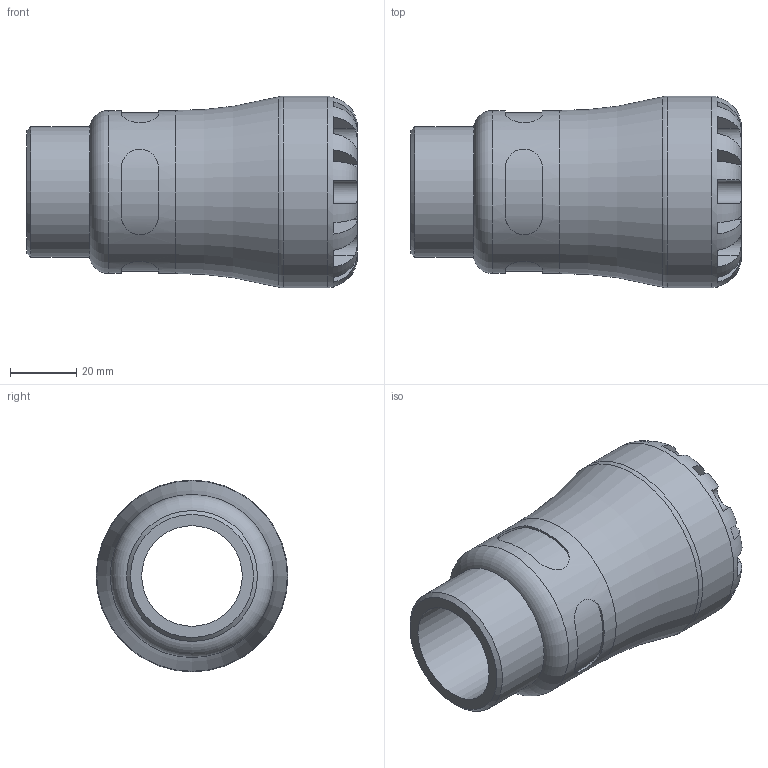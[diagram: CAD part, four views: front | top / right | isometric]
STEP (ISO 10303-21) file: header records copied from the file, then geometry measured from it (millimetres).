
FILE_DESCRIPTION(/* description */ ('PLASSON MALE INTEGRAL BRASS THREAD 32X1.1/4" SERIES 1'),/* implementation_level */ '2;1');
FILE_NAME(/* name */ 'C:\Dropbox\KIMPROJECTS-Inventor\99-16-3568-Processing\1072\107200032013_197200032013.ipt.stp',/* time_stamp */ '2017-01-22T10:48:55+02:00',/* author */ ('KIM'),/* organization */ (''),/* preprocessor_version */ 'ST-DEVELOPER v15.6',/* originating_system */ 'Autodesk Inventor 2015',/* authorisation */ '');
FILE_SCHEMA (('AUTOMOTIVE_DESIGN { 1 0 10303 214 3 1 1 }'));
Length unit declared in the file: millimetre
Products named in the file (1): 107200032013_197200032013
Bounding box: 100 x 58 x 58 mm (x, y, z)
Volume: 117412.4 mm3; surface area: 29261.8 mm2
Topology: 1 solids, 1 shells, 98 faces, 246 edges, 154 vertices
Faces by surface type: plane 59, cylinder 33, torus 4, cone 2
Full cylindrical faces by diameter (mm): 30.449 x1, 32 x1, 39.592 x1, 49.3 x1, 58 x1
Entity records: 3730 total; most frequent: CARTESIAN_POINT 1399, ORIENTED_EDGE 458, DIRECTION 448, EDGE_CURVE 229, AXIS2_PLACEMENT_3D 184, VERTEX_POINT 149, EDGE_LOOP 116, STYLED_ITEM 99
